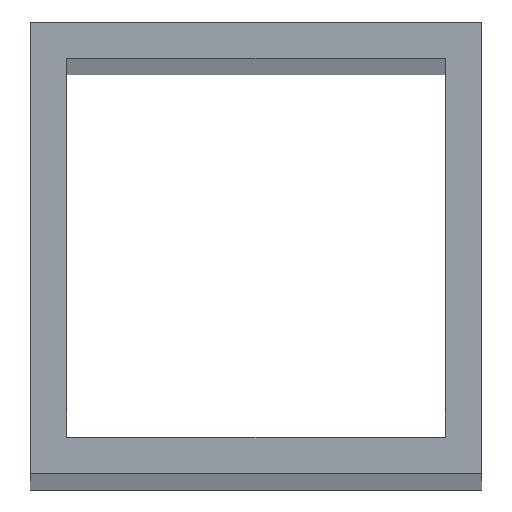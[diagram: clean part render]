
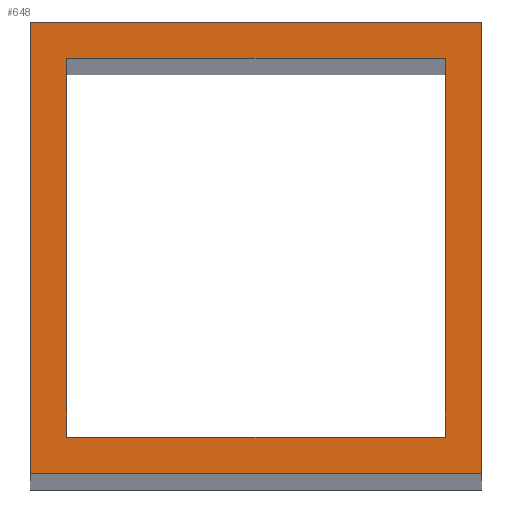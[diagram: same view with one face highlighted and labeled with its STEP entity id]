
A CAD part, top view. The second image highlights one B-rep face of the part: STEP entity #648.
In plain terms, the highlighted planar face has unit normal (0, 0, 1).
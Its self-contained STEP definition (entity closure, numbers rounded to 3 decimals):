
#24 = VERTEX_POINT('',#25);
#25 = CARTESIAN_POINT('',(-25.,-25.,1070.));
#32 = PLANE('',#33);
#33 = AXIS2_PLACEMENT_3D('',#34,#35,#36);
#34 = CARTESIAN_POINT('',(-25.,-25.,0.));
#35 = DIRECTION('',(0.,1.,0.));
#36 = DIRECTION('',(1.,0.,0.));
#44 = PLANE('',#45);
#45 = AXIS2_PLACEMENT_3D('',#46,#47,#48);
#46 = CARTESIAN_POINT('',(-25.,25.,0.));
#47 = DIRECTION('',(1.,0.,-0.));
#48 = DIRECTION('',(0.,-1.,0.));
#56 = EDGE_CURVE('',#24,#57,#59,.T.);
#57 = VERTEX_POINT('',#58);
#58 = CARTESIAN_POINT('',(25.,-25.,1070.));
#59 = SURFACE_CURVE('',#60,(#64,#71),.PCURVE_S1.);
#60 = LINE('',#61,#62);
#61 = CARTESIAN_POINT('',(-25.,-25.,1070.));
#62 = VECTOR('',#63,1.);
#63 = DIRECTION('',(1.,0.,0.));
#64 = PCURVE('',#32,#65);
#65 = DEFINITIONAL_REPRESENTATION('',(#66),#70);
#66 = LINE('',#67,#68);
#67 = CARTESIAN_POINT('',(0.,-1070.));
#68 = VECTOR('',#69,1.);
#69 = DIRECTION('',(1.,0.));
#70 = ( GEOMETRIC_REPRESENTATION_CONTEXT(2) 
PARAMETRIC_REPRESENTATION_CONTEXT() REPRESENTATION_CONTEXT('2D SPACE',''
  ) );
#71 = PCURVE('',#72,#77);
#72 = PLANE('',#73);
#73 = AXIS2_PLACEMENT_3D('',#74,#75,#76);
#74 = CARTESIAN_POINT('',(0.,0.,1070.));
#75 = DIRECTION('',(0.,0.,1.));
#76 = DIRECTION('',(1.,0.,-0.));
#77 = DEFINITIONAL_REPRESENTATION('',(#78),#82);
#78 = LINE('',#79,#80);
#79 = CARTESIAN_POINT('',(-25.,-25.));
#80 = VECTOR('',#81,1.);
#81 = DIRECTION('',(1.,0.));
#82 = ( GEOMETRIC_REPRESENTATION_CONTEXT(2) 
PARAMETRIC_REPRESENTATION_CONTEXT() REPRESENTATION_CONTEXT('2D SPACE',''
  ) );
#100 = PLANE('',#101);
#101 = AXIS2_PLACEMENT_3D('',#102,#103,#104);
#102 = CARTESIAN_POINT('',(25.,-25.,0.));
#103 = DIRECTION('',(-1.,0.,0.));
#104 = DIRECTION('',(0.,1.,0.));
#142 = EDGE_CURVE('',#57,#143,#145,.T.);
#143 = VERTEX_POINT('',#144);
#144 = CARTESIAN_POINT('',(25.,25.,1070.));
#145 = SURFACE_CURVE('',#146,(#150,#157),.PCURVE_S1.);
#146 = LINE('',#147,#148);
#147 = CARTESIAN_POINT('',(25.,-25.,1070.));
#148 = VECTOR('',#149,1.);
#149 = DIRECTION('',(0.,1.,0.));
#150 = PCURVE('',#100,#151);
#151 = DEFINITIONAL_REPRESENTATION('',(#152),#156);
#152 = LINE('',#153,#154);
#153 = CARTESIAN_POINT('',(0.,-1070.));
#154 = VECTOR('',#155,1.);
#155 = DIRECTION('',(1.,0.));
#156 = ( GEOMETRIC_REPRESENTATION_CONTEXT(2) 
PARAMETRIC_REPRESENTATION_CONTEXT() REPRESENTATION_CONTEXT('2D SPACE',''
  ) );
#157 = PCURVE('',#72,#158);
#158 = DEFINITIONAL_REPRESENTATION('',(#159),#163);
#159 = LINE('',#160,#161);
#160 = CARTESIAN_POINT('',(25.,-25.));
#161 = VECTOR('',#162,1.);
#162 = DIRECTION('',(0.,1.));
#163 = ( GEOMETRIC_REPRESENTATION_CONTEXT(2) 
PARAMETRIC_REPRESENTATION_CONTEXT() REPRESENTATION_CONTEXT('2D SPACE',''
  ) );
#181 = PLANE('',#182);
#182 = AXIS2_PLACEMENT_3D('',#183,#184,#185);
#183 = CARTESIAN_POINT('',(25.,25.,0.));
#184 = DIRECTION('',(0.,-1.,0.));
#185 = DIRECTION('',(-1.,0.,0.));
#218 = EDGE_CURVE('',#143,#219,#221,.T.);
#219 = VERTEX_POINT('',#220);
#220 = CARTESIAN_POINT('',(-25.,25.,1070.));
#221 = SURFACE_CURVE('',#222,(#226,#233),.PCURVE_S1.);
#222 = LINE('',#223,#224);
#223 = CARTESIAN_POINT('',(25.,25.,1070.));
#224 = VECTOR('',#225,1.);
#225 = DIRECTION('',(-1.,0.,0.));
#226 = PCURVE('',#181,#227);
#227 = DEFINITIONAL_REPRESENTATION('',(#228),#232);
#228 = LINE('',#229,#230);
#229 = CARTESIAN_POINT('',(0.,-1070.));
#230 = VECTOR('',#231,1.);
#231 = DIRECTION('',(1.,0.));
#232 = ( GEOMETRIC_REPRESENTATION_CONTEXT(2) 
PARAMETRIC_REPRESENTATION_CONTEXT() REPRESENTATION_CONTEXT('2D SPACE',''
  ) );
#233 = PCURVE('',#72,#234);
#234 = DEFINITIONAL_REPRESENTATION('',(#235),#239);
#235 = LINE('',#236,#237);
#236 = CARTESIAN_POINT('',(25.,25.));
#237 = VECTOR('',#238,1.);
#238 = DIRECTION('',(-1.,0.));
#239 = ( GEOMETRIC_REPRESENTATION_CONTEXT(2) 
PARAMETRIC_REPRESENTATION_CONTEXT() REPRESENTATION_CONTEXT('2D SPACE',''
  ) );
#289 = EDGE_CURVE('',#219,#24,#290,.T.);
#290 = SURFACE_CURVE('',#291,(#295,#302),.PCURVE_S1.);
#291 = LINE('',#292,#293);
#292 = CARTESIAN_POINT('',(-25.,25.,1070.));
#293 = VECTOR('',#294,1.);
#294 = DIRECTION('',(0.,-1.,0.));
#295 = PCURVE('',#44,#296);
#296 = DEFINITIONAL_REPRESENTATION('',(#297),#301);
#297 = LINE('',#298,#299);
#298 = CARTESIAN_POINT('',(0.,-1070.));
#299 = VECTOR('',#300,1.);
#300 = DIRECTION('',(1.,0.));
#301 = ( GEOMETRIC_REPRESENTATION_CONTEXT(2) 
PARAMETRIC_REPRESENTATION_CONTEXT() REPRESENTATION_CONTEXT('2D SPACE',''
  ) );
#302 = PCURVE('',#72,#303);
#303 = DEFINITIONAL_REPRESENTATION('',(#304),#308);
#304 = LINE('',#305,#306);
#305 = CARTESIAN_POINT('',(-25.,25.));
#306 = VECTOR('',#307,1.);
#307 = DIRECTION('',(0.,-1.));
#308 = ( GEOMETRIC_REPRESENTATION_CONTEXT(2) 
PARAMETRIC_REPRESENTATION_CONTEXT() REPRESENTATION_CONTEXT('2D SPACE',''
  ) );
#338 = VERTEX_POINT('',#339);
#339 = CARTESIAN_POINT('',(-21.,-21.,1070.));
#346 = PLANE('',#347);
#347 = AXIS2_PLACEMENT_3D('',#348,#349,#350);
#348 = CARTESIAN_POINT('',(-21.,-21.,0.));
#349 = DIRECTION('',(0.,1.,0.));
#350 = DIRECTION('',(1.,0.,0.));
#358 = PLANE('',#359);
#359 = AXIS2_PLACEMENT_3D('',#360,#361,#362);
#360 = CARTESIAN_POINT('',(-21.,21.,0.));
#361 = DIRECTION('',(1.,0.,-0.));
#362 = DIRECTION('',(0.,-1.,0.));
#370 = EDGE_CURVE('',#338,#371,#373,.T.);
#371 = VERTEX_POINT('',#372);
#372 = CARTESIAN_POINT('',(21.,-21.,1070.));
#373 = SURFACE_CURVE('',#374,(#378,#385),.PCURVE_S1.);
#374 = LINE('',#375,#376);
#375 = CARTESIAN_POINT('',(-21.,-21.,1070.));
#376 = VECTOR('',#377,1.);
#377 = DIRECTION('',(1.,0.,0.));
#378 = PCURVE('',#346,#379);
#379 = DEFINITIONAL_REPRESENTATION('',(#380),#384);
#380 = LINE('',#381,#382);
#381 = CARTESIAN_POINT('',(0.,-1070.));
#382 = VECTOR('',#383,1.);
#383 = DIRECTION('',(1.,0.));
#384 = ( GEOMETRIC_REPRESENTATION_CONTEXT(2) 
PARAMETRIC_REPRESENTATION_CONTEXT() REPRESENTATION_CONTEXT('2D SPACE',''
  ) );
#385 = PCURVE('',#72,#386);
#386 = DEFINITIONAL_REPRESENTATION('',(#387),#391);
#387 = LINE('',#388,#389);
#388 = CARTESIAN_POINT('',(-21.,-21.));
#389 = VECTOR('',#390,1.);
#390 = DIRECTION('',(1.,0.));
#391 = ( GEOMETRIC_REPRESENTATION_CONTEXT(2) 
PARAMETRIC_REPRESENTATION_CONTEXT() REPRESENTATION_CONTEXT('2D SPACE',''
  ) );
#409 = PLANE('',#410);
#410 = AXIS2_PLACEMENT_3D('',#411,#412,#413);
#411 = CARTESIAN_POINT('',(21.,-21.,0.));
#412 = DIRECTION('',(-1.,0.,0.));
#413 = DIRECTION('',(0.,1.,0.));
#446 = EDGE_CURVE('',#371,#447,#449,.T.);
#447 = VERTEX_POINT('',#448);
#448 = CARTESIAN_POINT('',(21.,21.,1070.));
#449 = SURFACE_CURVE('',#450,(#454,#461),.PCURVE_S1.);
#450 = LINE('',#451,#452);
#451 = CARTESIAN_POINT('',(21.,-21.,1070.));
#452 = VECTOR('',#453,1.);
#453 = DIRECTION('',(0.,1.,0.));
#454 = PCURVE('',#409,#455);
#455 = DEFINITIONAL_REPRESENTATION('',(#456),#460);
#456 = LINE('',#457,#458);
#457 = CARTESIAN_POINT('',(0.,-1070.));
#458 = VECTOR('',#459,1.);
#459 = DIRECTION('',(1.,0.));
#460 = ( GEOMETRIC_REPRESENTATION_CONTEXT(2) 
PARAMETRIC_REPRESENTATION_CONTEXT() REPRESENTATION_CONTEXT('2D SPACE',''
  ) );
#461 = PCURVE('',#72,#462);
#462 = DEFINITIONAL_REPRESENTATION('',(#463),#467);
#463 = LINE('',#464,#465);
#464 = CARTESIAN_POINT('',(21.,-21.));
#465 = VECTOR('',#466,1.);
#466 = DIRECTION('',(0.,1.));
#467 = ( GEOMETRIC_REPRESENTATION_CONTEXT(2) 
PARAMETRIC_REPRESENTATION_CONTEXT() REPRESENTATION_CONTEXT('2D SPACE',''
  ) );
#485 = PLANE('',#486);
#486 = AXIS2_PLACEMENT_3D('',#487,#488,#489);
#487 = CARTESIAN_POINT('',(21.,21.,0.));
#488 = DIRECTION('',(0.,-1.,0.));
#489 = DIRECTION('',(-1.,0.,0.));
#522 = EDGE_CURVE('',#447,#523,#525,.T.);
#523 = VERTEX_POINT('',#524);
#524 = CARTESIAN_POINT('',(-21.,21.,1070.));
#525 = SURFACE_CURVE('',#526,(#530,#537),.PCURVE_S1.);
#526 = LINE('',#527,#528);
#527 = CARTESIAN_POINT('',(21.,21.,1070.));
#528 = VECTOR('',#529,1.);
#529 = DIRECTION('',(-1.,0.,0.));
#530 = PCURVE('',#485,#531);
#531 = DEFINITIONAL_REPRESENTATION('',(#532),#536);
#532 = LINE('',#533,#534);
#533 = CARTESIAN_POINT('',(0.,-1070.));
#534 = VECTOR('',#535,1.);
#535 = DIRECTION('',(1.,0.));
#536 = ( GEOMETRIC_REPRESENTATION_CONTEXT(2) 
PARAMETRIC_REPRESENTATION_CONTEXT() REPRESENTATION_CONTEXT('2D SPACE',''
  ) );
#537 = PCURVE('',#72,#538);
#538 = DEFINITIONAL_REPRESENTATION('',(#539),#543);
#539 = LINE('',#540,#541);
#540 = CARTESIAN_POINT('',(21.,21.));
#541 = VECTOR('',#542,1.);
#542 = DIRECTION('',(-1.,0.));
#543 = ( GEOMETRIC_REPRESENTATION_CONTEXT(2) 
PARAMETRIC_REPRESENTATION_CONTEXT() REPRESENTATION_CONTEXT('2D SPACE',''
  ) );
#593 = EDGE_CURVE('',#523,#338,#594,.T.);
#594 = SURFACE_CURVE('',#595,(#599,#606),.PCURVE_S1.);
#595 = LINE('',#596,#597);
#596 = CARTESIAN_POINT('',(-21.,21.,1070.));
#597 = VECTOR('',#598,1.);
#598 = DIRECTION('',(0.,-1.,0.));
#599 = PCURVE('',#358,#600);
#600 = DEFINITIONAL_REPRESENTATION('',(#601),#605);
#601 = LINE('',#602,#603);
#602 = CARTESIAN_POINT('',(0.,-1070.));
#603 = VECTOR('',#604,1.);
#604 = DIRECTION('',(1.,0.));
#605 = ( GEOMETRIC_REPRESENTATION_CONTEXT(2) 
PARAMETRIC_REPRESENTATION_CONTEXT() REPRESENTATION_CONTEXT('2D SPACE',''
  ) );
#606 = PCURVE('',#72,#607);
#607 = DEFINITIONAL_REPRESENTATION('',(#608),#612);
#608 = LINE('',#609,#610);
#609 = CARTESIAN_POINT('',(-21.,21.));
#610 = VECTOR('',#611,1.);
#611 = DIRECTION('',(0.,-1.));
#612 = ( GEOMETRIC_REPRESENTATION_CONTEXT(2) 
PARAMETRIC_REPRESENTATION_CONTEXT() REPRESENTATION_CONTEXT('2D SPACE',''
  ) );
#648 = ADVANCED_FACE('',(#649,#655),#72,.T.);
#649 = FACE_BOUND('',#650,.T.);
#650 = EDGE_LOOP('',(#651,#652,#653,#654));
#651 = ORIENTED_EDGE('',*,*,#56,.T.);
#652 = ORIENTED_EDGE('',*,*,#142,.T.);
#653 = ORIENTED_EDGE('',*,*,#218,.T.);
#654 = ORIENTED_EDGE('',*,*,#289,.T.);
#655 = FACE_BOUND('',#656,.F.);
#656 = EDGE_LOOP('',(#657,#658,#659,#660));
#657 = ORIENTED_EDGE('',*,*,#370,.T.);
#658 = ORIENTED_EDGE('',*,*,#446,.T.);
#659 = ORIENTED_EDGE('',*,*,#522,.T.);
#660 = ORIENTED_EDGE('',*,*,#593,.T.);
